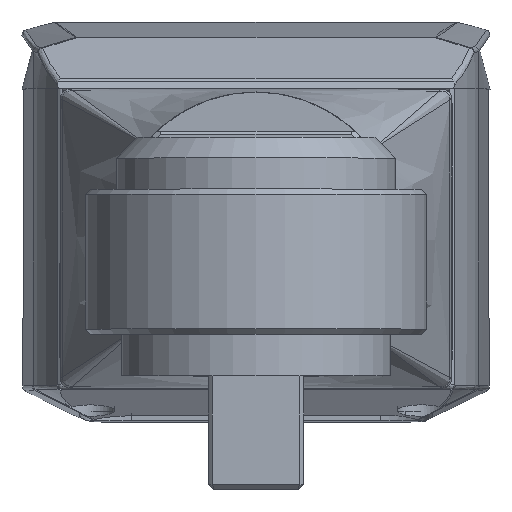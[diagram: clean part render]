
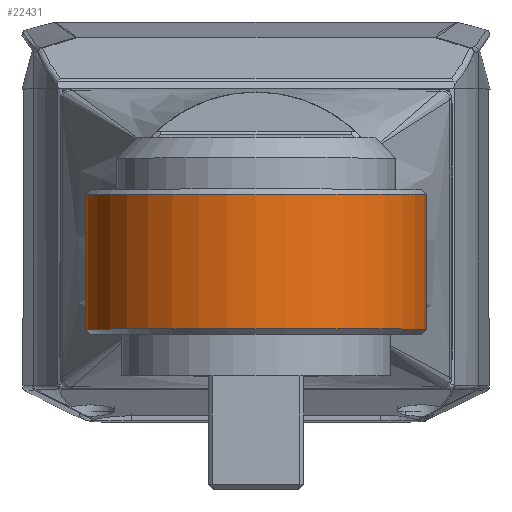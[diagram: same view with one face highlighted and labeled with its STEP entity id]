
A CAD part, top view. The second image highlights one B-rep face of the part: STEP entity #22431.
In plain terms, the highlighted cylindrical face has radius 16.5 mm (diameter 33 mm), a partial arc.
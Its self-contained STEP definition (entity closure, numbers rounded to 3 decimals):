
#21826=DIRECTION('',(0.,1.,0.));
#21827=VECTOR('',#21826,13.);
#21828=CARTESIAN_POINT('',(15.692,8.55,184.701));
#21829=LINE('',#21828,#21827);
#21834=CARTESIAN_POINT('',(0.,8.55,189.8));
#21835=DIRECTION('',(0.,-1.,0.));
#21836=DIRECTION('',(0.951,0.,-0.309));
#21837=AXIS2_PLACEMENT_3D('',#21834,#21835,#21836);
#21839=DIRECTION('',(0.,1.,0.));
#21840=VECTOR('',#21839,13.);
#21841=CARTESIAN_POINT('',(-15.692,8.55,
184.701));
#21842=LINE('',#21841,#21840);
#21843=CARTESIAN_POINT('',(0.,21.55,189.8));
#21844=DIRECTION('',(0.,1.,0.));
#21845=DIRECTION('',(-0.951,0.,-0.309));
#21846=AXIS2_PLACEMENT_3D('',#21843,#21844,#21845);
#22242=CARTESIAN_POINT('',(-15.692,21.55,184.701));
#22243=CARTESIAN_POINT('',(15.692,21.55,184.701));
#22244=VERTEX_POINT('',#22242);
#22245=VERTEX_POINT('',#22243);
#22250=CARTESIAN_POINT('',(15.692,8.55,184.701));
#22251=CARTESIAN_POINT('',(-15.692,8.55,184.701));
#22252=VERTEX_POINT('',#22250);
#22253=VERTEX_POINT('',#22251);
#22418=CARTESIAN_POINT('',(0.,8.05,189.8));
#22419=DIRECTION('',(0.,-1.,0.));
#22420=DIRECTION('',(1.,0.,0.));
#22421=AXIS2_PLACEMENT_3D('',#22418,#22419,#22420);
#22422=CYLINDRICAL_SURFACE('',#22421,16.5);
#22424=ORIENTED_EDGE('',*,*,#22423,.T.);
#22425=ORIENTED_EDGE('',*,*,#22395,.T.);
#22427=ORIENTED_EDGE('',*,*,#22426,.T.);
#22428=ORIENTED_EDGE('',*,*,#22411,.F.);
#22429=EDGE_LOOP('',(#22424,#22425,#22427,#22428));
#22430=FACE_OUTER_BOUND('',#22429,.F.);
#21838=CIRCLE('',#21837,16.5);
#21847=CIRCLE('',#21846,16.5);
#22395=EDGE_CURVE('',#22253,#22244,#21842,.T.);
#22411=EDGE_CURVE('',#22252,#22245,#21829,.T.);
#22423=EDGE_CURVE('',#22252,#22253,#21838,.T.);
#22426=EDGE_CURVE('',#22244,#22245,#21847,.T.);
#22431=ADVANCED_FACE('',(#22430),#22422,.T.);
